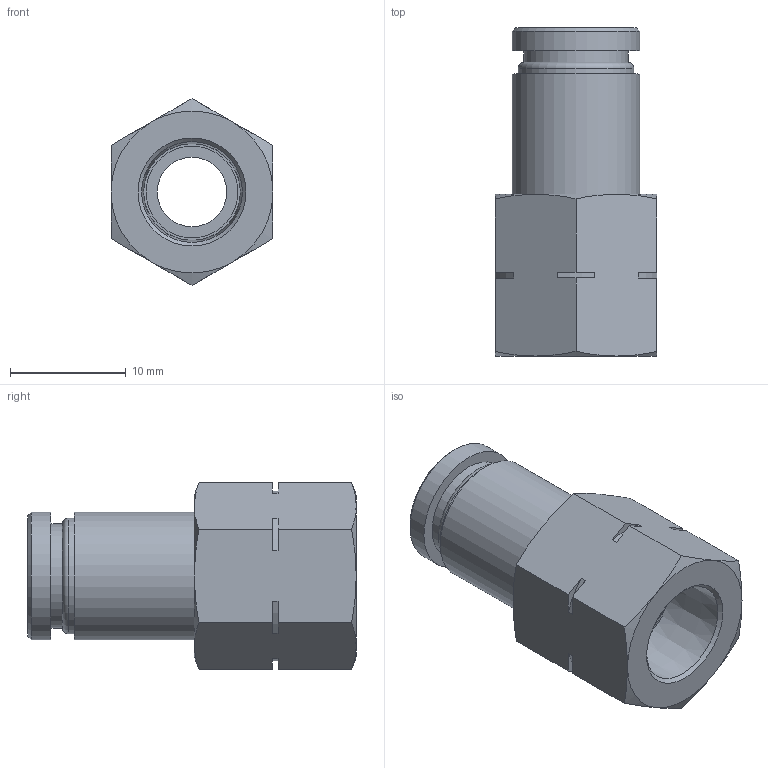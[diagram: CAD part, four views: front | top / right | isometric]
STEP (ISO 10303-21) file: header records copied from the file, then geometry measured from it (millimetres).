
FILE_DESCRIPTION(/* description */ (''),/* implementation_level */ '2;1');
FILE_NAME(/* name */ 'LXH14 0008 N1.stp',/* time_stamp */ '2026-04-28T14:56:10+02:00',/* author */ ('freju'),/* organization */ (''),/* preprocessor_version */ 'ST-DEVELOPER v20.1',/* originating_system */ 'Autodesk Inventor 2026',/* authorisation */ '');
FILE_SCHEMA (('AUTOMOTIVE_DESIGN { 1 0 10303 214 3 1 1 }'));
Length unit declared in the file: millimetre
Products named in the file (1): LXH14 0008 N1
Bounding box: 14 x 28.4 x 16.17 mm (x, y, z)
Volume: 2282.5 mm3; surface area: 2195.8 mm2
Topology: 1 solids, 1 shells, 55 faces, 129 edges, 82 vertices
Faces by surface type: plane 26, cone 15, cylinder 13, torus 1
Full cylindrical faces by diameter (mm): 6 x1, 7.95 x1, 8 x1, 9 x1, 10 x1, 11 x2
Entity records: 1597 total; most frequent: CARTESIAN_POINT 315, DIRECTION 264, ORIENTED_EDGE 258, EDGE_CURVE 129, AXIS2_PLACEMENT_3D 103, VERTEX_POINT 82, EDGE_LOOP 63, LINE 58
